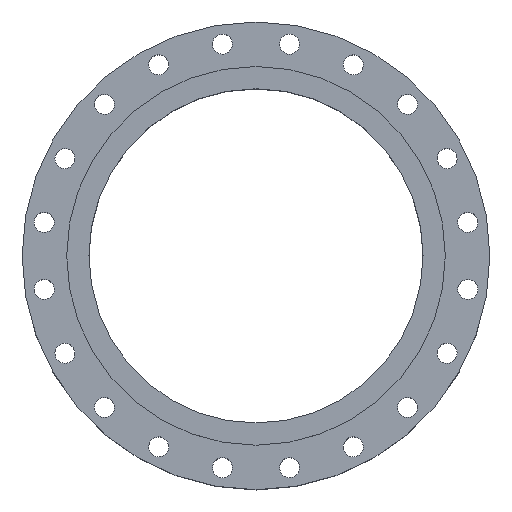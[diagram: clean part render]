
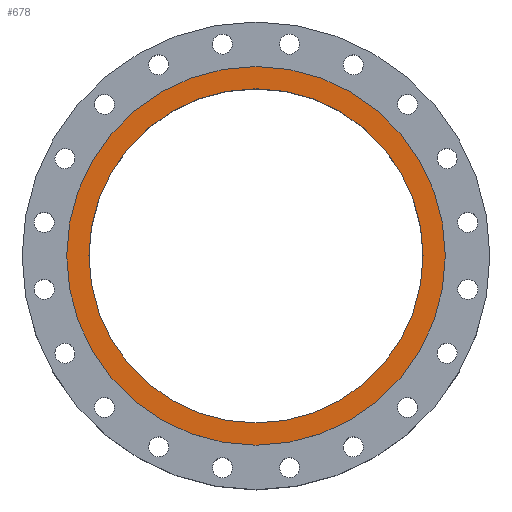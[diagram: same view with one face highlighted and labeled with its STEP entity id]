
A CAD part, top view. The second image highlights one B-rep face of the part: STEP entity #678.
In plain terms, the highlighted planar face has unit normal (0, 0, 1).
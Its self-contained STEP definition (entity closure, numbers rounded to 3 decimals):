
#678=ADVANCED_FACE('',(#1503,#1505),#1507,.T.);
#1503=FACE_BOUND('',#1504,.T.);
#1504=EDGE_LOOP('',(#1836));
#1505=FACE_BOUND('',#1506,.T.);
#1506=EDGE_LOOP('',(#1837));
#1507=PLANE('',#1508);
#1508=AXIS2_PLACEMENT_3D('',#1509,#1510,#1511);
#1509=CARTESIAN_POINT('',(0.,0.,130.));
#1510=DIRECTION('',(0.,0.,1.));
#1511=DIRECTION('',(0.,1.,0.));
#1836=ORIENTED_EDGE('',*,*,#1984,.F.);
#1837=ORIENTED_EDGE('',*,*,#1986,.T.);
#1984=EDGE_CURVE('',#2246,#2246,#2247,.T.);
#1986=EDGE_CURVE('',#2250,#2250,#2251,.T.);
#2246=VERTEX_POINT('',#3787);
#2247=CIRCLE('',#3788,340.);
#2250=VERTEX_POINT('',#3797);
#2251=CIRCLE('',#3798,300.);
#3787=CARTESIAN_POINT('',(0.,340.,130.));
#3788=AXIS2_PLACEMENT_3D('',#3789,#3790,#3791);
#3789=CARTESIAN_POINT('',(0.,0.,130.));
#3790=DIRECTION('',(0.,0.,-1.));
#3791=DIRECTION('',(0.,1.,0.));
#3797=CARTESIAN_POINT('',(0.,300.,130.));
#3798=AXIS2_PLACEMENT_3D('',#3799,#3800,#3801);
#3799=CARTESIAN_POINT('',(0.,0.,130.));
#3800=DIRECTION('',(0.,0.,-1.));
#3801=DIRECTION('',(0.,1.,0.));
